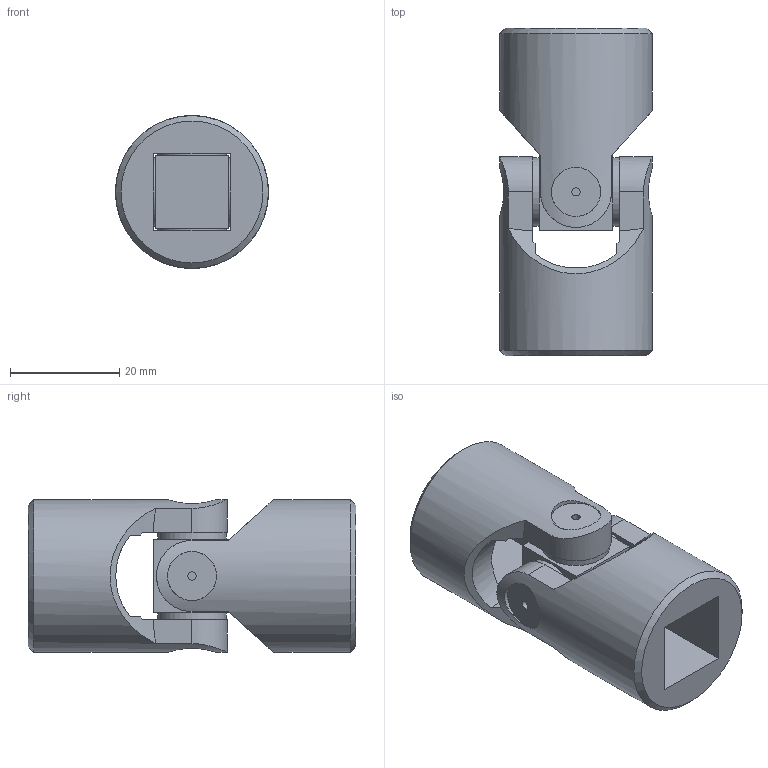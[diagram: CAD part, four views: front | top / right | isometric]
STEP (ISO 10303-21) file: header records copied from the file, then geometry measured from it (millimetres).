
FILE_DESCRIPTION(/* description */ ('EXTENSIBLE TRANSIMISSIONS Series G DIN 808 -2-'),/* implementation_level */ '2;1');
FILE_NAME(/* name */ '\\SRV2016\societa\Stefano\Disegni 3D\Dis. Clienti\0000Catalogo 3D\01Singoli G-GB\SG0S142Q.stp',/* time_stamp */ '2021-11-08T16:13:48+01:00',/* author */ ('acquisti'),/* organization */ ('MARIOFERRI'),/* preprocessor_version */ 'ST-DEVELOPER v15.6',/* originating_system */ 'Autodesk Inventor 2015',/* authorisation */ '');
FILE_SCHEMA (('AUTOMOTIVE_DESIGN { 1 0 10303 214 3 1 1 }'));
Length unit declared in the file: millimetre
Products named in the file (3): 05G SFE; 05G MOQ; Assieme1
Assembly tree (3 placements, depth 2):
  Assieme1
    05G SFE
    05G MOQ  x2
Bounding box: 28 x 60 x 28 mm (x, y, z)
Volume: 22743.3 mm3; surface area: 10365.1 mm2
Topology: 3 solids, 3 shells, 90 faces, 230 edges, 156 vertices
Faces by surface type: plane 44, cylinder 26, cone 18, torus 2
Full cylindrical faces by diameter (mm): 1.5 x4, 9 x4, 12.5 x4, 28 x2
Entity records: 1723 total; most frequent: CARTESIAN_POINT 529, DIRECTION 228, ORIENTED_EDGE 226, EDGE_CURVE 113, AXIS2_PLACEMENT_3D 94, VERTEX_POINT 83, EDGE_LOOP 72, FACE_OUTER_BOUND 52
